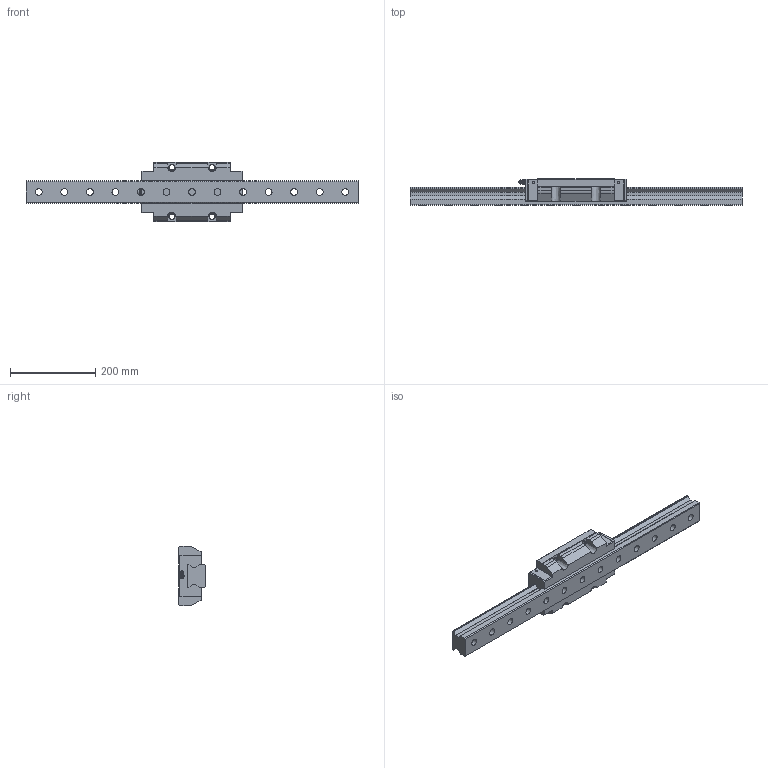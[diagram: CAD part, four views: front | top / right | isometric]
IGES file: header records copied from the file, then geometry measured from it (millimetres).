
Start section: Data from Parasolid IGES Translator 26.0.171, Copyright(c) 2006 Siemens PLM Software. All Rights Reserved.
Global section: file name: SRN55LC1SS-780L_G30_0_B-PT18_272-5_0_0_0_1.igs; native system: By Siemens PLM Incorporated; preprocessor: XPlus GENERIC/IGES 26.0.171; author: Noname; organization: Noname; date: 20240523.104354; units: millimetre
Bounding box: 780 x 63 x 140 mm (x, y, z)
Surface area: 310883.3 mm2 (no closed solid volume)
Topology: 0 solids, 0 shells, 258 faces, 1355 edges, 1265 vertices
Faces by surface type: extrusion 164, revolution 94
